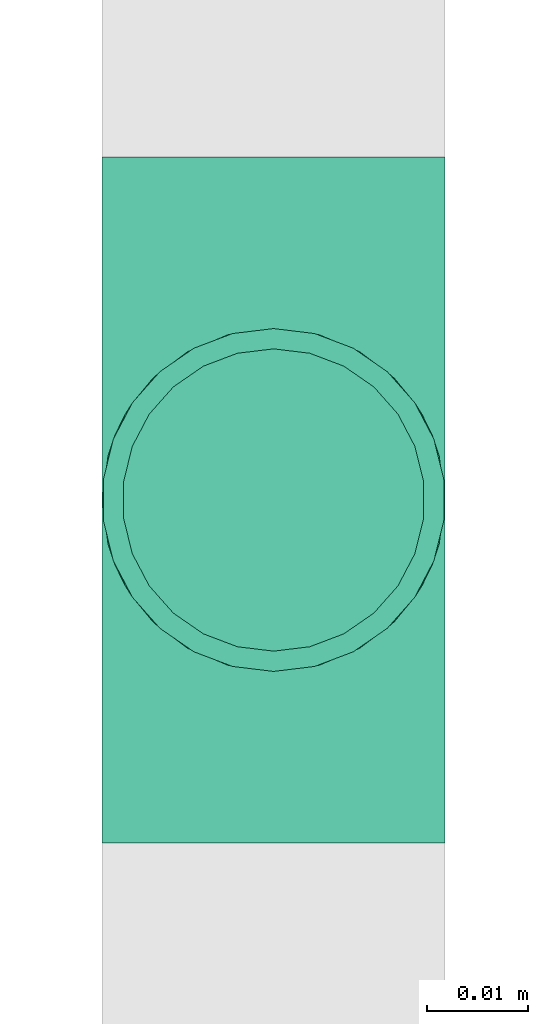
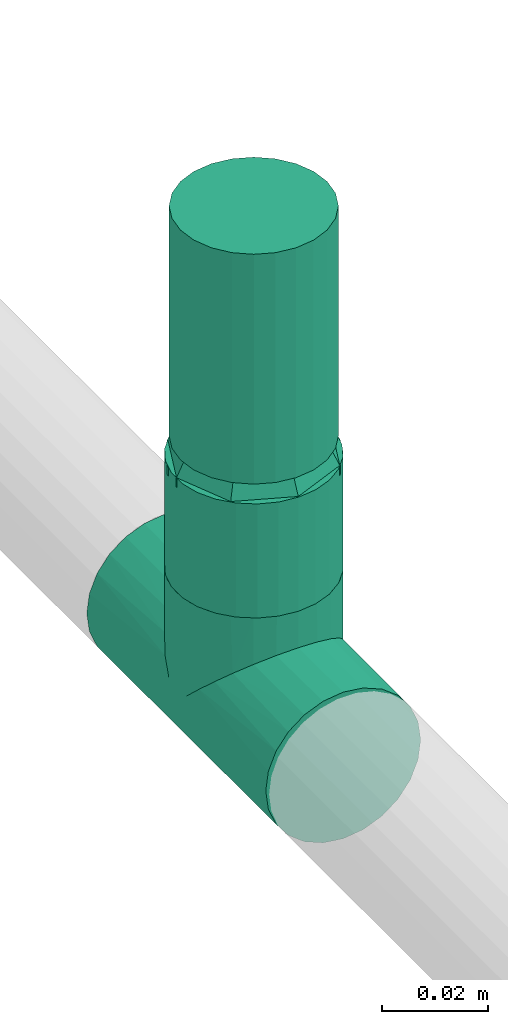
# One storey, part 34 of 45: 2 flow fittings, 1 flow segment, 1 flow terminal.
"""IFC2X3 building model written with IfcOpenShell, lengths in millimetres."""

from ifc_helpers import new_model, entity, si_unit, converted_unit, derived_unit, direction, frame, origin_with_axes, origin_2d_with_axis, place, context, subcontext, project, spatial, hollow_circle, extrude, open_shell, surface_model, source, transform, mapped, type_object, element, save


model = new_model("IFC2X3")

# Units and contexts
model_context = context("Model", 3, precision=0.01, world=frame((0.0, 4.29681676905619e-09, 0.0)), true_north=direction((4.01073788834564e-13, 1.0)))
plan_context = context("Plan", 3, precision=0.01, world=frame((0.0, 4.29681676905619e-09, 0.0)), true_north=direction((4.01073788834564e-13, 1.0)))
body_context = subcontext(model_context, "Body", "Model", "MODEL_VIEW")
ifc_project = project(units=[converted_unit("PLANEANGLEUNIT", "DEGREE", entity("IfcPositiveLengthMeasure", 0.0174532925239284), si_unit("PLANEANGLEUNIT", "RADIAN"), dimensions=[0, 0, 0, 0, 0, 0, 0]), si_unit("AREAUNIT", "SQUARE_METRE"), si_unit("LENGTHUNIT", "METRE", prefix="MILLI"), si_unit("MASSUNIT", "GRAM", prefix="KILO"), si_unit("POWERUNIT", "WATT"), si_unit("PRESSUREUNIT", "PASCAL", prefix="KILO"), si_unit("FORCEUNIT", "NEWTON", prefix="KILO"), si_unit("ELECTRICVOLTAGEUNIT", "VOLT"), si_unit("ELECTRICCURRENTUNIT", "AMPERE"), si_unit("THERMODYNAMICTEMPERATUREUNIT", "DEGREE_CELSIUS"), si_unit("TIMEUNIT", "SECOND"), si_unit("VOLUMEUNIT", "CUBIC_METRE"), derived_unit("LINEARVELOCITYUNIT", [(si_unit("LENGTHUNIT", "METRE"), 1), (si_unit("TIMEUNIT", "SECOND"), -1)]), derived_unit("VOLUMETRICFLOWRATEUNIT", [(si_unit("VOLUMEUNIT", "CUBIC_METRE"), 1), (si_unit("TIMEUNIT", "SECOND"), -1)]), derived_unit("THERMALTRANSMITTANCEUNIT", [(si_unit("POWERUNIT", "WATT"), 1), (si_unit("THERMODYNAMICTEMPERATUREUNIT", "KELVIN"), -1), (si_unit("AREAUNIT", "SQUARE_METRE"), -1)]), derived_unit("SOUNDPRESSUREUNIT", [(si_unit("PRESSUREUNIT", "PASCAL"), 1)])], contexts=[model_context, plan_context])

# Site, building, storey
site_placement = place(None, frame((0.0, -4.29681676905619e-09, 0.0), z_axis=(0.0, 0.0, 1.0), x_axis=(1.0, 0.0, 0.0)))
site = spatial("IfcSite", under=ifc_project, at=site_placement, CompositionType="ELEMENT")
building_placement = place(site_placement, frame((0.0, 4.29681676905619e-09, 0.0), z_axis=(0.0, 0.0, 1.0), x_axis=(1.0, 0.0, 0.0)))
building = spatial("IfcBuilding", under=site, at=building_placement, Name="mc-building", CompositionType="ELEMENT")
storey_placement = place(building_placement, frame((0.0, 0.0, 210200.0), z_axis=(0.0, 0.0, 1.0), x_axis=(1.0, 0.0, 0.0)))
storey = spatial("IfcBuildingStorey", under=building, at=storey_placement, Name="Nivå F - 0,7 m", CompositionType="ELEMENT", Elevation=210200.0)

# Flow fittings
pipe_fitting_type_1 = type_object("IfcPipeFittingType", Name="magi_pipe_fe_tee_centric_90_001", PredefinedType="JUNCTION")
shared_shape_1 = source(origin_with_axes(), body_context, "Body", "SurfaceModel", [
    surface_model("IfcShellBasedSurfaceModel", [(-33.8, 4.37404, -16.32415), (-33.8, 0.0, -16.9), (-33.8, 16.32415, -4.37404), (-33.8, 8.45, -14.63583), (-33.8, 11.9501, -11.9501), (-33.8, 14.63583, -8.45), (-33.8, -16.9, 0.0), (-33.8, -11.9501, -11.9501), (-33.8, -14.63583, -8.45), (-33.8, -8.45, -14.63583), (-33.8, -4.37404, -16.32415), (-33.8, -16.32415, -4.37404), (-33.8, 14.63583, 8.45), (-33.8, 16.32415, 4.37404), (-33.8, -8.45, 14.63583), (-33.8, 8.45, 14.63583), (-33.8, 11.9501, 11.9501), (-33.8, 4.37404, 16.32415), (-33.8, 0.0, 16.9), (-33.8, -11.9501, 11.9501), (-33.8, -14.63583, 8.45), (-33.8, -16.32415, 4.37404), (-33.8, -4.37404, 16.32415), (-33.8, 16.9, 0.0), (33.8, 4.37404, -16.32415), (33.8, -16.9, 0.0), (33.8, 0.0, -16.9), (33.8, 14.63583, -8.45), (33.8, 8.45, -14.63583), (33.8, 16.32415, -4.37404), (33.8, 11.9501, -11.9501), (33.8, -16.32415, 4.37404), (33.8, -8.45, -14.63583), (33.8, -4.37404, -16.32415), (33.8, -11.9501, -11.9501), (33.8, -14.63583, -8.45), (33.8, -16.32415, -4.37404), (33.8, 16.32415, 4.37404), (33.8, 8.45, 14.63583), (33.8, 14.63583, 8.45), (33.8, 11.9501, 11.9501), (33.8, -8.45, 14.63583), (33.8, 4.37404, 16.32415), (33.8, -14.63583, 8.45), (33.8, -11.9501, 11.9501), (33.8, 0.0, 16.9), (33.8, -4.37404, 16.32415), (33.8, 16.9, 0.0), (16.28698, -16.28698, 4.51047), (16.9, -16.9, 0.0), (14.62704, -14.62704, 8.4652), (9.47213, -9.47213, 13.99602), (12.26343, -12.26343, 11.62834), (-16.9, -16.9, 0.0), (-16.28698, -16.28698, 4.51047), (-14.62704, -14.62704, 8.4652), (-12.26343, -12.26343, 11.62834), (-9.47213, -9.47213, 13.99602), (-6.42894, -6.42894, 15.62942), (6.42894, -6.42894, 15.62942), (3.24522, -3.24522, 16.58549), (0.0, 0.0, 16.9), (-3.24522, -3.24522, 16.58549), (3.24522, -3.24522, -16.58549), (0.0, 0.0, -16.9), (-3.24522, -3.24522, -16.58549), (-6.42894, -6.42894, -15.62942), (6.42894, -6.42894, -15.62942), (9.47213, -9.47213, -13.99602), (12.26343, -12.26343, -11.62834), (14.62704, -14.62704, -8.4652), (16.28698, -16.28698, -4.51047), (-9.47213, -9.47213, -13.99602), (-12.26343, -12.26343, -11.62834), (-16.28698, -16.28698, -4.51047), (-14.62704, -14.62704, -8.4652), (4.37404, -25.35, -16.32415), (-16.9, -25.35, 0.0), (0.0, -25.35, -16.9), (14.63583, -25.35, -8.45), (8.45, -25.35, -14.63583), (16.32415, -25.35, -4.37404), (11.9501, -25.35, -11.9501), (-11.9501, -25.35, -11.9501), (-8.45, -25.35, -14.63583), (-4.37404, -25.35, -16.32415), (-14.63583, -25.35, -8.45), (-16.32415, -25.35, -4.37404), (16.9, -25.35, 0.0), (8.45, -25.35, 14.63583), (16.32415, -25.35, 4.37404), (14.63583, -25.35, 8.45), (-8.45, -25.35, 14.63583), (11.9501, -25.35, 11.9501), (4.37404, -25.35, 16.32415), (-16.32415, -25.35, 4.37404), (-11.9501, -25.35, 11.9501), (-14.63583, -25.35, 8.45), (0.0, -25.35, 16.9), (-4.37404, -25.35, 16.32415)], [open_shell([[[0, 1, 2]], [[3, 0, 4]], [[0, 2, 5]], [[4, 0, 5]], [[6, 2, 1]], [[7, 8, 9]], [[1, 10, 9]], [[11, 6, 8]], [[1, 9, 8]], [[1, 8, 6]], [[6, 12, 2]], [[12, 13, 2]], [[14, 12, 6]], [[12, 14, 15]], [[16, 12, 15]], [[17, 15, 18]], [[19, 14, 20]], [[21, 20, 14]], [[22, 18, 14]], [[14, 6, 21]], [[14, 18, 15]], [[23, 2, 13]], [[24, 25, 26]], [[27, 24, 28]], [[27, 29, 24]], [[27, 28, 30]], [[31, 25, 24]], [[26, 32, 33]], [[26, 34, 32]], [[35, 25, 36]], [[35, 34, 26]], [[25, 35, 26]], [[24, 29, 31]], [[29, 37, 38]], [[38, 37, 39]], [[38, 31, 29]], [[38, 39, 40]], [[41, 38, 42]], [[43, 41, 44]], [[41, 43, 31]], [[41, 45, 46]], [[41, 31, 38]], [[42, 45, 41]], [[29, 47, 37]], [[31, 43, 48]], [[25, 31, 49]], [[49, 31, 48]], [[43, 50, 48]], [[44, 41, 51]], [[50, 43, 52]], [[51, 52, 44]], [[52, 43, 44]], [[53, 54, 21]], [[53, 21, 6]], [[21, 54, 20]], [[54, 55, 20]], [[56, 57, 19]], [[19, 20, 56]], [[19, 57, 14]], [[56, 20, 55]], [[14, 57, 58]], [[51, 41, 59]], [[60, 45, 61]], [[59, 46, 60]], [[46, 59, 41]], [[60, 46, 45]], [[61, 45, 42]], [[39, 37, 13]], [[16, 38, 40]], [[12, 40, 39]], [[42, 38, 15]], [[23, 37, 47]], [[62, 61, 18]], [[62, 22, 58]], [[22, 62, 18]], [[58, 22, 14]], [[61, 17, 18]], [[42, 17, 61]], [[15, 17, 42]], [[15, 38, 16]], [[12, 16, 40]], [[13, 12, 39]], [[37, 23, 13]], [[5, 27, 30]], [[23, 47, 29]], [[30, 28, 3]], [[27, 2, 29]], [[26, 33, 63]], [[26, 64, 24]], [[64, 26, 63]], [[28, 24, 0]], [[64, 0, 24]], [[4, 30, 3]], [[2, 27, 5]], [[5, 30, 4]], [[2, 23, 29]], [[65, 66, 10]], [[1, 0, 64]], [[1, 65, 10]], [[66, 9, 10]], [[0, 3, 28]], [[1, 64, 65]], [[63, 33, 67]], [[32, 34, 68]], [[69, 68, 34]], [[35, 70, 69]], [[69, 34, 35]], [[32, 68, 67]], [[36, 25, 49]], [[36, 71, 35]], [[71, 36, 49]], [[35, 71, 70]], [[72, 9, 66]], [[72, 7, 9]], [[7, 72, 73]], [[7, 73, 8]], [[74, 53, 11]], [[75, 74, 8]], [[74, 11, 8]], [[11, 53, 6]], [[75, 8, 73]], [[32, 67, 33]], [[76, 77, 78]], [[79, 76, 80]], [[79, 81, 76]], [[79, 80, 82]], [[77, 76, 81]], [[78, 83, 84]], [[84, 85, 78]], [[86, 77, 87]], [[83, 78, 86]], [[77, 86, 78]], [[81, 88, 77]], [[89, 88, 90]], [[89, 90, 91]], [[92, 77, 89]], [[89, 91, 93]], [[92, 89, 94]], [[95, 96, 97]], [[96, 95, 92]], [[92, 98, 99]], [[95, 77, 92]], [[94, 98, 92]], [[89, 77, 88]], [[77, 95, 53]], [[54, 53, 95]], [[97, 96, 56]], [[96, 92, 57]], [[95, 97, 54]], [[58, 92, 99]], [[55, 54, 97]], [[56, 55, 97]], [[58, 57, 92]], [[98, 61, 62]], [[58, 99, 62]], [[56, 96, 57]], [[62, 99, 98]], [[94, 60, 98]], [[89, 59, 94]], [[91, 90, 48]], [[52, 93, 91]], [[93, 51, 89]], [[49, 90, 88]], [[59, 60, 94]], [[51, 59, 89]], [[49, 48, 90]], [[50, 52, 91]], [[48, 50, 91]], [[51, 93, 52]], [[98, 60, 61]], [[88, 81, 49]], [[71, 49, 81]], [[79, 82, 69]], [[82, 80, 68]], [[81, 79, 71]], [[67, 80, 76]], [[70, 71, 79]], [[69, 70, 79]], [[67, 68, 80]], [[78, 64, 63]], [[67, 76, 63]], [[69, 82, 68]], [[63, 76, 78]], [[85, 65, 78]], [[84, 66, 85]], [[86, 87, 74]], [[86, 73, 83]], [[72, 84, 83]], [[53, 87, 77]], [[66, 65, 85]], [[72, 66, 84]], [[53, 74, 87]], [[75, 73, 86]], [[74, 75, 86]], [[72, 83, 73]], [[78, 65, 64]]])]),
])
flow_fitting_1_placement = place(storey_placement, frame((344657.5, 463176.80156, 2810.44542), z_axis=(-1.0, 0.0, 0.0), x_axis=(0.0, 1.0, 0.0)))
element("IfcFlowFitting", 1, at=flow_fitting_1_placement, inside=storey, type_object=pipe_fitting_type_1, Name="magi_pipe_fe_tee_centric_90_001", context=body_context, shape_type="MappedRepresentation", body=[
    mapped(shared_shape_1, transform((0.0, 0.0, 0.0), scale=1.0)),
])
pipe_fitting_type_2 = type_object("IfcPipeFittingType", Name="magi_pipe_fe_reducer_centric_short_001", PredefinedType="TRANSITION")
shared_shape_2 = source(origin_with_axes(), body_context, "Body", "SurfaceModel", [
    surface_model("IfcShellBasedSurfaceModel", [(9.0, 4.37404, -16.32415), (9.0, 8.45, -14.63583), (9.0, 11.9501, -11.9501), (9.0, 0.0, -16.9), (9.0, 16.32415, -4.37404), (9.0, 16.32415, 4.37404), (9.0, 14.63583, -8.45), (9.0, -8.45, -14.63583), (9.0, -4.37404, -16.32415), (9.0, -11.9501, -11.9501), (9.0, -16.32415, -4.37404), (9.0, -14.63583, -8.45), (9.0, -16.32415, 4.37404), (9.0, 16.9, 0.0), (9.0, 14.63583, 8.45), (9.0, 11.9501, 11.9501), (9.0, 4.37404, 16.32415), (9.0, 0.0, 16.9), (9.0, 8.45, 14.63583), (9.0, -14.63583, 8.45), (9.0, -16.9, 0.0), (9.0, -8.45, 14.63583), (9.0, -11.9501, 11.9501), (9.0, -4.37404, 16.32415), (7.0, 4.37404, 16.32415), (7.0, -14.63583, 8.45), (7.0, 0.0, 16.9), (7.0, 16.32415, 4.37404), (7.0, 8.45, 14.63583), (7.0, 11.9501, 11.9501), (7.0, 14.63583, 8.45), (7.0, -8.45, 14.63583), (7.0, -11.9501, 11.9501), (7.0, -4.37404, 16.32415), (7.0, -16.32415, 4.37404), (7.0, -16.32415, -4.37404), (7.0, -16.9, 0.0), (7.0, -8.45, -14.63583), (7.0, 16.32415, -4.37404), (7.0, 11.9501, -11.9501), (7.0, 14.63583, -8.45), (7.0, 8.45, -14.63583), (7.0, 4.37404, -16.32415), (7.0, 0.0, -16.9), (7.0, -11.9501, -11.9501), (7.0, -14.63583, -8.45), (7.0, -4.37404, -16.32415), (7.0, 16.9, 0.0), (-2.0, -9.47523, 9.47523), (-2.0, 0.0, 13.4), (-2.0, 3.46818, 12.94341), (-2.0, 6.7, 11.60474), (-2.0, 9.47523, 9.47523), (-2.0, 11.60474, 6.7), (-2.0, 12.94341, 3.46818), (-2.0, -3.46818, 12.94341), (-2.0, -6.7, 11.60474), (-2.0, -12.94341, 3.46818), (-2.0, -11.60474, 6.7), (-2.0, -6.7, -11.60474), (-2.0, -12.94341, -3.46818), (-2.0, -13.4, 0.0), (-2.0, 12.94341, -3.46818), (-2.0, 6.7, -11.60474), (-2.0, 9.47523, -9.47523), (-2.0, 11.60474, -6.7), (-2.0, 3.46818, -12.94341), (-2.0, 0.0, -13.4), (-2.0, -9.47523, -9.47523), (-2.0, -11.60474, -6.7), (-2.0, -3.46818, -12.94341), (-2.0, 13.4, 0.0), (0.0, 12.94341, -3.46818), (0.0, 3.46818, -12.94341), (0.0, 6.7, -11.60474), (0.0, 11.60474, -6.7), (0.0, 9.47523, -9.47523), (0.0, -6.7, -11.60474), (0.0, -12.94341, 3.46818), (0.0, -3.46818, -12.94341), (0.0, 0.0, -13.4), (0.0, -9.47523, -9.47523), (0.0, -12.94341, -3.46818), (0.0, -11.60474, -6.7), (0.0, 13.4, 0.0), (0.0, 12.94341, 3.46818), (0.0, 11.60474, 6.7), (0.0, 9.47523, 9.47523), (0.0, 0.0, 13.4), (0.0, 6.7, 11.60474), (0.0, 3.46818, 12.94341), (0.0, -9.47523, 9.47523), (0.0, -11.60474, 6.7), (0.0, -13.4, 0.0), (0.0, -3.46818, 12.94341), (0.0, -6.7, 11.60474), (7.0, -14.51228, -5.76448), (0.0, -11.43761, -4.73762), (7.0, -13.23119, -8.85729), (0.0, -10.45642, -7.10642), (0.0, -12.41881, -2.36881), (7.0, -15.70614, -2.88224), (0.0, -2.36881, -12.41881), (7.0, -5.97505, -14.42505), (0.0, -7.10642, -10.45642), (0.0, -4.73762, -11.43761), (7.0, -2.98753, -15.66253), (7.0, -8.96258, -13.18758), (7.0, 2.98753, -15.66253), (0.0, 2.36881, -12.41881), (0.0, 12.45339, -2.28533), (7.0, 13.18758, -8.96258), (0.0, 10.45642, -7.10642), (7.0, 14.42505, -5.97505), (0.0, 11.43761, -4.73762), (0.0, 7.10642, -10.45642), (7.0, 8.96258, -13.18758), (7.0, 15.66253, -2.98753), (0.0, 4.73762, -11.43761), (7.0, 5.97505, -14.42505), (7.0, 14.51228, 5.76448), (0.0, 11.43761, 4.73762), (7.0, 13.23119, 8.85729), (0.0, 10.45642, 7.10642), (0.0, 12.41881, 2.36881), (7.0, 15.70614, 2.88224), (0.0, 2.36881, 12.41881), (7.0, 5.97505, 14.42505), (0.0, 7.10642, 10.45642), (0.0, 4.73762, 11.43761), (7.0, 2.98753, 15.66253), (7.0, 8.96258, 13.18758), (7.0, -2.98753, 15.66253), (0.0, -2.36881, 12.41881), (0.0, -12.45339, 2.28533), (7.0, -13.18758, 8.96258), (0.0, -10.45642, 7.10642), (7.0, -14.42505, 5.97505), (0.0, -11.43761, 4.73762), (0.0, -7.10642, 10.45642), (7.0, -8.96258, 13.18758), (7.0, -15.66253, 2.98753), (0.0, -4.73762, 11.43761), (7.0, -5.97505, 14.42505)], [open_shell([[[0, 1, 2]], [[3, 0, 2]], [[2, 4, 5]], [[4, 2, 6]], [[2, 5, 7]], [[3, 7, 8]], [[3, 2, 7]], [[9, 10, 11]], [[10, 9, 7]], [[7, 12, 10]], [[5, 4, 13]], [[5, 14, 15]], [[5, 15, 16]], [[16, 17, 5]], [[16, 15, 18]], [[5, 17, 19]], [[5, 19, 12]], [[20, 10, 12]], [[19, 21, 22]], [[19, 17, 21]], [[21, 17, 23]], [[12, 7, 5]], [[24, 25, 26]], [[27, 24, 28]], [[29, 30, 27]], [[29, 27, 28]], [[25, 24, 27]], [[31, 25, 32]], [[25, 31, 33]], [[26, 25, 33]], [[27, 34, 25]], [[34, 35, 36]], [[34, 27, 37]], [[27, 38, 39]], [[39, 38, 40]], [[39, 41, 42]], [[37, 27, 39]], [[42, 43, 39]], [[35, 44, 45]], [[44, 35, 37]], [[37, 43, 46]], [[35, 34, 37]], [[39, 43, 37]], [[38, 27, 47]], [[35, 10, 36]], [[45, 11, 35]], [[7, 44, 37]], [[45, 44, 9]], [[8, 37, 46]], [[35, 11, 10]], [[10, 20, 36]], [[8, 7, 37]], [[9, 44, 7]], [[9, 11, 45]], [[3, 8, 46]], [[46, 43, 3]], [[42, 0, 43]], [[41, 1, 42]], [[6, 39, 40]], [[41, 39, 2]], [[4, 40, 38]], [[41, 2, 1]], [[1, 0, 42]], [[13, 4, 38]], [[6, 40, 4]], [[6, 2, 39]], [[47, 13, 38]], [[43, 0, 3]], [[27, 5, 47]], [[30, 14, 27]], [[18, 29, 28]], [[30, 29, 15]], [[16, 28, 24]], [[27, 14, 5]], [[5, 13, 47]], [[16, 18, 28]], [[15, 29, 18]], [[15, 14, 30]], [[17, 16, 24]], [[24, 26, 17]], [[33, 23, 26]], [[31, 21, 33]], [[19, 32, 25]], [[31, 32, 22]], [[12, 25, 34]], [[31, 22, 21]], [[21, 23, 33]], [[20, 12, 34]], [[19, 25, 12]], [[19, 22, 32]], [[36, 20, 34]], [[26, 23, 17]], [[48, 49, 50]], [[51, 48, 50]], [[52, 53, 54]], [[52, 54, 51]], [[48, 51, 54]], [[55, 48, 56]], [[55, 49, 48]], [[48, 57, 58]], [[48, 59, 57]], [[57, 60, 61]], [[62, 48, 54]], [[48, 62, 63]], [[64, 62, 65]], [[66, 48, 63]], [[63, 62, 64]], [[66, 67, 48]], [[60, 68, 69]], [[60, 57, 68]], [[70, 59, 48]], [[57, 59, 68]], [[70, 48, 67]], [[71, 62, 54]], [[72, 73, 74]], [[75, 74, 76]], [[77, 73, 78]], [[72, 74, 75]], [[73, 72, 78]], [[73, 79, 80]], [[73, 77, 79]], [[81, 82, 83]], [[78, 82, 81]], [[81, 77, 78]], [[72, 84, 78]], [[85, 86, 87]], [[85, 87, 88]], [[89, 90, 88]], [[89, 88, 87]], [[85, 88, 91]], [[78, 91, 92]], [[93, 82, 78]], [[91, 94, 95]], [[91, 78, 85]], [[94, 91, 88]], [[78, 84, 85]], [[60, 82, 61]], [[69, 83, 60]], [[77, 68, 59]], [[69, 68, 81]], [[79, 59, 70]], [[60, 83, 82]], [[82, 93, 61]], [[79, 77, 59]], [[81, 68, 77]], [[81, 83, 69]], [[80, 79, 70]], [[70, 67, 80]], [[66, 73, 67]], [[63, 74, 66]], [[75, 64, 65]], [[63, 64, 76]], [[72, 65, 62]], [[63, 76, 74]], [[74, 73, 66]], [[84, 72, 62]], [[75, 65, 72]], [[75, 76, 64]], [[71, 84, 62]], [[67, 73, 80]], [[54, 85, 71]], [[53, 86, 54]], [[89, 52, 51]], [[53, 52, 87]], [[90, 51, 50]], [[54, 86, 85]], [[85, 84, 71]], [[90, 89, 51]], [[87, 52, 89]], [[87, 86, 53]], [[88, 90, 50]], [[50, 49, 88]], [[55, 94, 49]], [[56, 95, 55]], [[92, 48, 58]], [[56, 48, 91]], [[78, 58, 57]], [[56, 91, 95]], [[95, 94, 55]], [[93, 78, 57]], [[92, 58, 78]], [[92, 91, 48]], [[61, 93, 57]], [[49, 94, 88]], [[36, 29, 26]], [[39, 47, 29]], [[26, 32, 36]], [[36, 44, 43]], [[43, 39, 36]], [[36, 39, 29]], [[81, 91, 88]], [[81, 93, 91]], [[88, 87, 84]], [[84, 76, 81]], [[80, 81, 76]], [[84, 81, 88]], [[96, 97, 98]], [[81, 44, 99]], [[100, 96, 101]], [[102, 80, 43]], [[103, 104, 105]], [[102, 43, 106]], [[107, 81, 104]], [[108, 80, 109]], [[110, 84, 47]], [[93, 101, 36]], [[108, 43, 80]], [[111, 76, 112]], [[113, 112, 114]], [[115, 39, 116]], [[110, 47, 117]], [[99, 98, 97]], [[117, 113, 114]], [[106, 103, 105]], [[118, 116, 119]], [[109, 118, 119]], [[96, 100, 97]], [[93, 100, 101]], [[99, 44, 98]], [[104, 103, 107]], [[107, 44, 81]], [[106, 105, 102]], [[112, 113, 111]], [[111, 39, 76]], [[117, 114, 110]], [[116, 118, 115]], [[115, 76, 39]], [[109, 119, 108]], [[120, 121, 122]], [[87, 29, 123]], [[124, 120, 125]], [[126, 88, 26]], [[127, 128, 129]], [[126, 26, 130]], [[131, 87, 128]], [[132, 88, 133]], [[134, 93, 36]], [[84, 125, 47]], [[132, 26, 88]], [[135, 91, 136]], [[137, 136, 138]], [[139, 32, 140]], [[134, 36, 141]], [[123, 122, 121]], [[141, 137, 138]], [[130, 127, 129]], [[142, 140, 143]], [[133, 142, 143]], [[120, 124, 121]], [[84, 124, 125]], [[123, 29, 122]], [[128, 127, 131]], [[131, 29, 87]], [[130, 129, 126]], [[136, 137, 135]], [[135, 32, 91]], [[141, 138, 134]], [[140, 142, 139]], [[139, 91, 32]], [[133, 143, 132]]])]),
])
flow_fitting_2_placement = place(storey_placement, frame((344657.5, 463176.80156, 2869.04800000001), z_axis=(1.0, 0.0, 0.0), x_axis=(0.0, 0.0, -1.0)))
element("IfcFlowFitting", 2, at=flow_fitting_2_placement, inside=storey, type_object=pipe_fitting_type_2, Name="magi_pipe_fe_reducer_centric_short_001", context=body_context, shape_type="MappedRepresentation", body=[
    mapped(shared_shape_2, transform((0.0, 0.0, 0.0), scale=1.0)),
])

# Flow segment
pipe_segment_type = type_object("IfcPipeSegmentType", Name="Stålrør normaltykke", PredefinedType="RIGIDSEGMENT")
shared_shape_3 = source(origin_with_axes(), body_context, "Body", "SweptSolid", [
    extrude(hollow_circle(Radius=16.9, WallThickness=2.0, at=origin_2d_with_axis()), frame((0.0, 0.0, 0.0), z_axis=(1.0, 0.0, 0.0), x_axis=(0.0, 1.0, 0.0)), (0.0, 0.0, 1.0), 26.3),
])
flow_segment_placement = place(storey_placement, frame((344657.5, 463176.80156, 2862.04800000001), z_axis=(1.0, 0.0, 0.0), x_axis=(0.0, 0.0, -1.0)))
element("IfcFlowSegment", 3, at=flow_segment_placement, inside=storey, type_object=pipe_segment_type, Name="Stålrør normaltykke", context=body_context, shape_type="MappedRepresentation", body=[
    mapped(shared_shape_3, transform((0.0, 0.0, 0.0), scale=1.0)),
])

# Flow terminal
fire_suppression_terminal_type = type_object("IfcFireSuppressionTerminalType", Name="SP-15-K80-68DGR-STD", PredefinedType="NOTDEFINED")
shared_shape_4 = source(origin_with_axes(), body_context, "Body", "SurfaceModel", [
    surface_model("IfcShellBasedSurfaceModel", [(4.1411, -15.45481, 53.0), (8.0, -13.85641, 53.0), (11.31371, -11.31371, 53.0), (-8.0, -13.85641, 53.0), (15.45481, -4.1411, 53.0), (16.0, 0.0, 53.0), (13.85641, -8.0, 53.0), (0.0, -16.0, 53.0), (-4.1411, -15.45481, 53.0), (-13.85641, -8.0, 53.0), (-11.31371, -11.31371, 53.0), (-15.45481, -4.1411, 53.0), (15.45481, 4.1411, 53.0), (13.85641, 8.0, 53.0), (11.31371, 11.31371, 53.0), (-4.1411, 15.45481, 53.0), (8.0, 13.85641, 53.0), (4.1411, 15.45481, 53.0), (0.0, 16.0, 53.0), (-13.85641, 8.0, 53.0), (-15.45481, 4.1411, 53.0), (-16.0, 0.0, 53.0), (-11.31371, 11.31371, 53.0), (-8.0, 13.85641, 53.0), (0.0, 16.0, 0.0), (4.1411, 15.45481, 0.0), (8.0, 13.85641, 0.0), (-4.1411, 15.45481, 0.0), (11.31371, 11.31371, 0.0), (13.85641, 8.0, 0.0), (15.45481, 4.1411, 0.0), (-15.45481, -4.1411, 0.0), (-11.31371, 11.31371, 0.0), (-8.0, 13.85641, 0.0), (-13.85641, 8.0, 0.0), (-15.45481, 4.1411, 0.0), (-16.0, 0.0, 0.0), (4.1411, -15.45481, 0.0), (16.0, 0.0, 0.0), (15.45481, -4.1411, 0.0), (13.85641, -8.0, 0.0), (11.31371, -11.31371, 0.0), (8.0, -13.85641, 0.0), (-8.0, -13.85641, 0.0), (-13.85641, -8.0, 0.0), (-11.31371, -11.31371, 0.0), (0.0, -16.0, 0.0), (-4.1411, -15.45481, 0.0)], [open_shell([[[0, 1, 2]], [[3, 0, 2]], [[4, 5, 2]], [[4, 2, 6]], [[3, 2, 5]], [[7, 3, 8]], [[7, 0, 3]], [[3, 9, 10]], [[9, 3, 11]], [[5, 11, 3]], [[5, 12, 11]], [[12, 13, 14]], [[15, 12, 14]], [[16, 17, 18]], [[14, 16, 15]], [[18, 15, 16]], [[11, 19, 20]], [[21, 11, 20]], [[22, 15, 23]], [[15, 22, 19]], [[19, 11, 15]], [[11, 12, 15]], [[24, 25, 26]], [[27, 24, 26]], [[28, 29, 30]], [[27, 26, 28]], [[27, 28, 31]], [[27, 32, 33]], [[32, 27, 34]], [[34, 31, 35]], [[31, 34, 27]], [[35, 31, 36]], [[28, 30, 31]], [[37, 38, 39]], [[37, 39, 40]], [[41, 42, 37]], [[41, 37, 40]], [[38, 37, 43]], [[44, 43, 45]], [[43, 44, 31]], [[43, 46, 47]], [[43, 31, 38]], [[37, 46, 43]], [[38, 31, 30]], [[11, 31, 44]], [[45, 9, 44]], [[3, 43, 47]], [[45, 43, 10]], [[8, 47, 46]], [[31, 21, 36]], [[31, 11, 21]], [[44, 9, 11]], [[45, 10, 9]], [[3, 10, 43]], [[47, 8, 3]], [[46, 7, 8]], [[0, 37, 42]], [[41, 1, 42]], [[6, 40, 39]], [[41, 40, 2]], [[4, 39, 38]], [[37, 0, 7]], [[42, 1, 0]], [[41, 2, 1]], [[40, 6, 2]], [[4, 6, 39]], [[38, 5, 4]], [[37, 7, 46]], [[12, 38, 30]], [[13, 30, 29]], [[16, 26, 25]], [[17, 25, 24]], [[30, 13, 12]], [[12, 5, 38]], [[28, 14, 13]], [[28, 26, 14]], [[14, 26, 16]], [[25, 17, 16]], [[28, 13, 29]], [[24, 18, 17]], [[15, 27, 33]], [[32, 23, 33]], [[19, 34, 35]], [[32, 34, 22]], [[20, 35, 36]], [[27, 15, 18]], [[33, 23, 15]], [[32, 22, 23]], [[34, 19, 22]], [[20, 19, 35]], [[36, 21, 20]], [[27, 18, 24]]])]),
])
flow_terminal_placement = place(storey_placement, frame((344657.5, 463176.80156, 2866.0), z_axis=(0.0, 0.0, 1.0), x_axis=(1.0, 0.0, 0.0)))
element("IfcFlowTerminal", 4, at=flow_terminal_placement, inside=storey, type_object=fire_suppression_terminal_type, Name="SP-15-K80-68DGR-STD", context=body_context, shape_type="MappedRepresentation", body=[
    mapped(shared_shape_4, transform((0.0, 0.0, 0.0), scale=1.0)),
])

save(model, "model.ifc")
